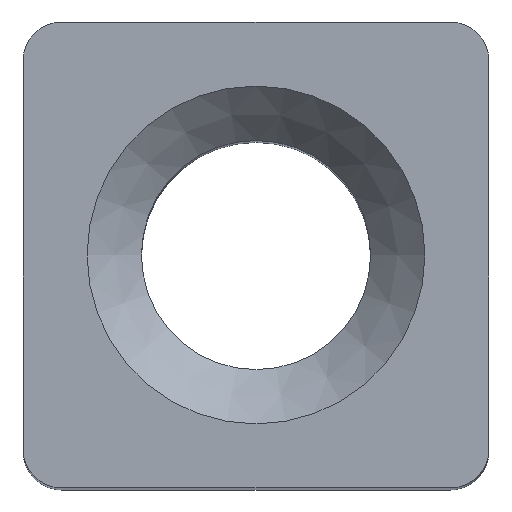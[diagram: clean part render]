
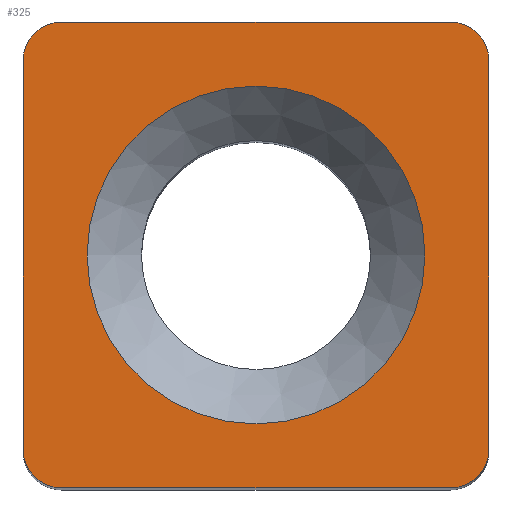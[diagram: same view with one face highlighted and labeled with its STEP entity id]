
A CAD part, top view. The second image highlights one B-rep face of the part: STEP entity #325.
In plain terms, the highlighted planar face has unit normal (0, 0, 1).
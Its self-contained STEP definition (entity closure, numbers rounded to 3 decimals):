
#110 = VERTEX_POINT('',#111);
#111 = CARTESIAN_POINT('',(-2.5,-3.,15.));
#117 = EDGE_CURVE('',#110,#118,#120,.T.);
#118 = VERTEX_POINT('',#119);
#119 = CARTESIAN_POINT('',(2.5,-3.,15.));
#120 = LINE('',#121,#122);
#121 = CARTESIAN_POINT('',(-3.,-3.,15.));
#122 = VECTOR('',#123,1.);
#123 = DIRECTION('',(1.,0.,0.));
#141 = VERTEX_POINT('',#142);
#142 = CARTESIAN_POINT('',(-3.,-2.5,15.));
#148 = EDGE_CURVE('',#110,#141,#149,.T.);
#149 = CIRCLE('',#150,0.5);
#150 = AXIS2_PLACEMENT_3D('',#151,#152,#153);
#151 = CARTESIAN_POINT('',(-2.5,-2.5,15.));
#152 = DIRECTION('',(-0.,-0.,-1.));
#153 = DIRECTION('',(0.,-1.,0.));
#166 = VERTEX_POINT('',#167);
#167 = CARTESIAN_POINT('',(3.,-2.5,15.));
#173 = EDGE_CURVE('',#118,#166,#174,.T.);
#174 = CIRCLE('',#175,0.5);
#175 = AXIS2_PLACEMENT_3D('',#176,#177,#178);
#176 = CARTESIAN_POINT('',(2.5,-2.5,15.));
#177 = DIRECTION('',(-0.,0.,1.));
#178 = DIRECTION('',(0.,-1.,0.));
#191 = VERTEX_POINT('',#192);
#192 = CARTESIAN_POINT('',(-3.,2.5,15.));
#198 = EDGE_CURVE('',#191,#141,#199,.T.);
#199 = LINE('',#200,#201);
#200 = CARTESIAN_POINT('',(-3.,3.,15.));
#201 = VECTOR('',#202,1.);
#202 = DIRECTION('',(0.,-1.,0.));
#215 = EDGE_CURVE('',#166,#216,#218,.T.);
#216 = VERTEX_POINT('',#217);
#217 = CARTESIAN_POINT('',(3.,2.5,15.));
#218 = LINE('',#219,#220);
#219 = CARTESIAN_POINT('',(3.,-3.,15.));
#220 = VECTOR('',#221,1.);
#221 = DIRECTION('',(0.,1.,0.));
#239 = EDGE_CURVE('',#240,#191,#242,.T.);
#240 = VERTEX_POINT('',#241);
#241 = CARTESIAN_POINT('',(-2.5,3.,15.));
#242 = CIRCLE('',#243,0.5);
#243 = AXIS2_PLACEMENT_3D('',#244,#245,#246);
#244 = CARTESIAN_POINT('',(-2.5,2.5,15.));
#245 = DIRECTION('',(-0.,0.,1.));
#246 = DIRECTION('',(0.,-1.,0.));
#264 = VERTEX_POINT('',#265);
#265 = CARTESIAN_POINT('',(2.5,3.,15.));
#271 = EDGE_CURVE('',#216,#264,#272,.T.);
#272 = CIRCLE('',#273,0.5);
#273 = AXIS2_PLACEMENT_3D('',#274,#275,#276);
#274 = CARTESIAN_POINT('',(2.5,2.5,15.));
#275 = DIRECTION('',(-0.,0.,1.));
#276 = DIRECTION('',(0.,-1.,0.));
#289 = EDGE_CURVE('',#264,#240,#290,.T.);
#290 = LINE('',#291,#292);
#291 = CARTESIAN_POINT('',(3.,3.,15.));
#292 = VECTOR('',#293,1.);
#293 = DIRECTION('',(-1.,0.,0.));
#325 = ADVANCED_FACE('',(#326,#336),#347,.T.);
#326 = FACE_BOUND('',#327,.T.);
#327 = EDGE_LOOP('',(#328,#329,#330,#331,#332,#333,#334,#335));
#328 = ORIENTED_EDGE('',*,*,#117,.T.);
#329 = ORIENTED_EDGE('',*,*,#173,.T.);
#330 = ORIENTED_EDGE('',*,*,#215,.T.);
#331 = ORIENTED_EDGE('',*,*,#271,.T.);
#332 = ORIENTED_EDGE('',*,*,#289,.T.);
#333 = ORIENTED_EDGE('',*,*,#239,.T.);
#334 = ORIENTED_EDGE('',*,*,#198,.T.);
#335 = ORIENTED_EDGE('',*,*,#148,.F.);
#336 = FACE_BOUND('',#337,.T.);
#337 = EDGE_LOOP('',(#338));
#338 = ORIENTED_EDGE('',*,*,#339,.F.);
#339 = EDGE_CURVE('',#340,#340,#342,.T.);
#340 = VERTEX_POINT('',#341);
#341 = CARTESIAN_POINT('',(2.175,0.,15.));
#342 = CIRCLE('',#343,2.175);
#343 = AXIS2_PLACEMENT_3D('',#344,#345,#346);
#344 = CARTESIAN_POINT('',(0.,0.,15.));
#345 = DIRECTION('',(0.,0.,1.));
#346 = DIRECTION('',(1.,0.,0.));
#347 = PLANE('',#348);
#348 = AXIS2_PLACEMENT_3D('',#349,#350,#351);
#349 = CARTESIAN_POINT('',(0.,0.,15.));
#350 = DIRECTION('',(0.,0.,1.));
#351 = DIRECTION('',(1.,0.,0.));
